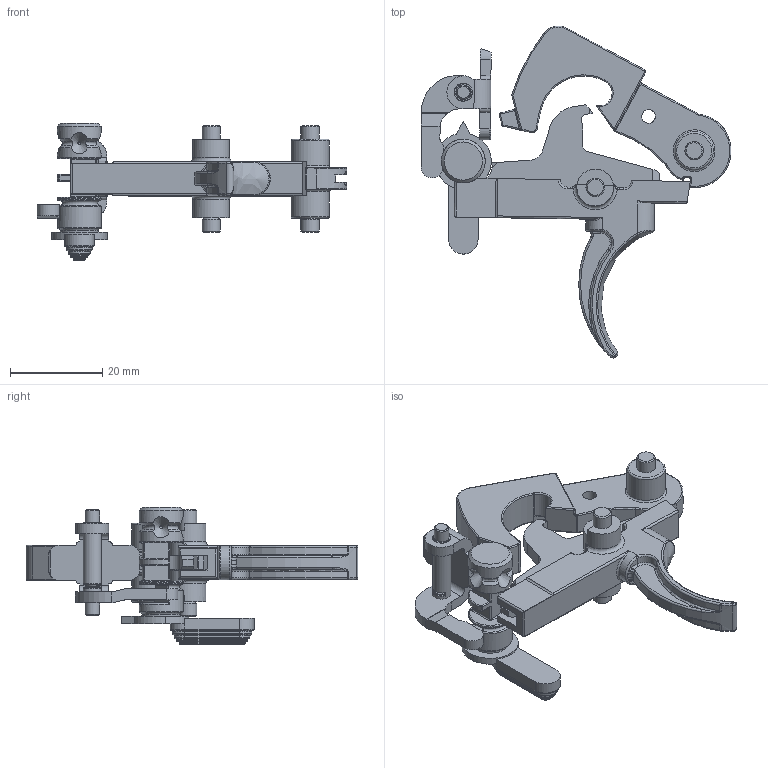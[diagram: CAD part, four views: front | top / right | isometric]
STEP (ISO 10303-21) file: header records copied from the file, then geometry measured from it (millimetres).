
FILE_DESCRIPTION(/* description */ (''),/* implementation_level */ '2;1');
FILE_NAME(/* name */ 'D:\Downloads\M16 FCG\step\M16 FCG Fosscad Semi Auto Hammer Cocked Trigger Reset.stp',/* time_stamp */ '2019-01-20T20:07:15-06:00',/* author */ ('johne'),/* organization */ (''),/* preprocessor_version */ 'ST-DEVELOPER v16.13',/* originating_system */ 'Autodesk Inventor 2018',/* authorisation */ '');
FILE_SCHEMA (('AUTOMOTIVE_DESIGN { 1 0 10303 214 3 1 1 }'));
Length unit declared in the file: inch
Products named in the file (9): M16 FCG Fosscad; M16 Disco V2; Selector M16 V2; Auto Sear; Auto Trigger; M16 Hammer V6; Auto Sear Pin; Auto Sear Bushing; Hammer Pin
Assembly tree (9 placements, depth 2):
  M16 FCG Fosscad
    M16 Disco V2
    Selector M16 V2
    Auto Sear
    Auto Trigger
    M16 Hammer V6
    Auto Sear Pin
    Auto Sear Bushing
    Hammer Pin  x2
Bounding box: 67.13 x 71.89 x 29.74 mm (x, y, z)
Volume: 12147.6 mm3; surface area: 11227.7 mm2
Topology: 10 solids, 10 shells, 591 faces, 1439 edges, 856 vertices
Faces by surface type: cylinder 206, plane 173, torus 101, bspline 70, sphere 25, cone 16
Full cylindrical faces by diameter (mm): 2.946 x1, 3.023 x1, 3.124 x3, 3.188 x1, 3.95 x2, 3.962 x3, 3.969 x6, 4.013 x2, 4.216 x1, 7.986 x2, 8.255 x1, 8.28 x2, 9.474 x4
Entity records: 26117 total; most frequent: CARTESIAN_POINT 12580, DIRECTION 2848, ORIENTED_EDGE 2680, EDGE_CURVE 1340, AXIS2_PLACEMENT_3D 1142, VERTEX_POINT 831, EDGE_LOOP 659, FACE_OUTER_BOUND 582
